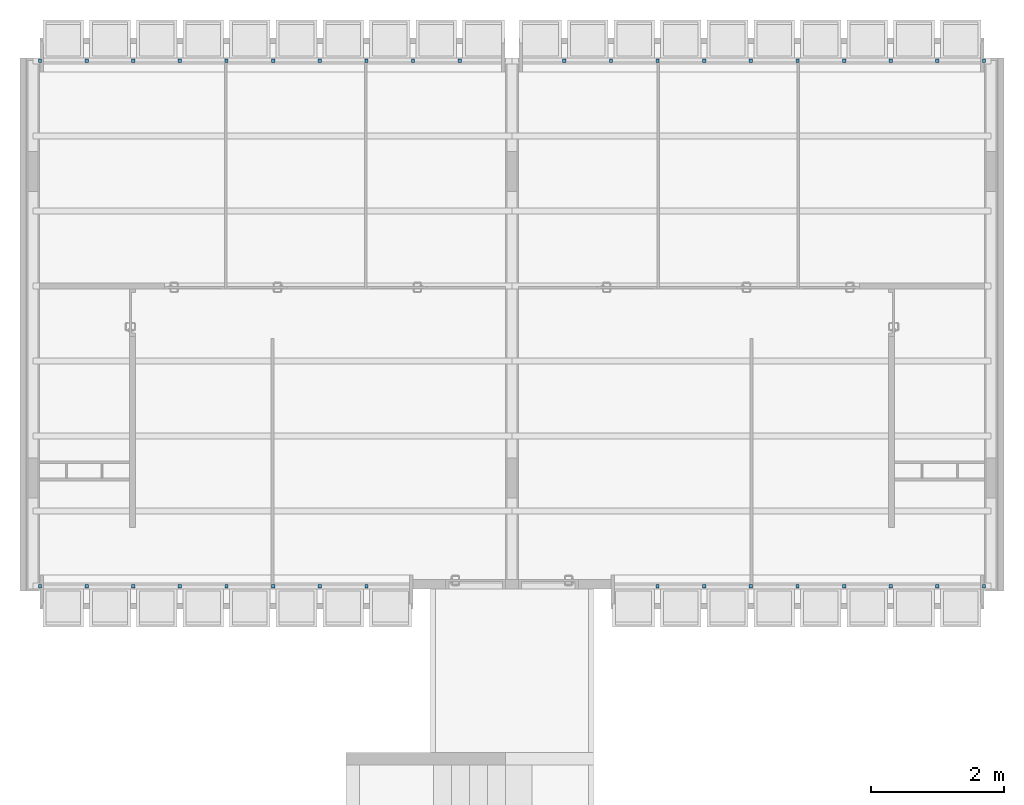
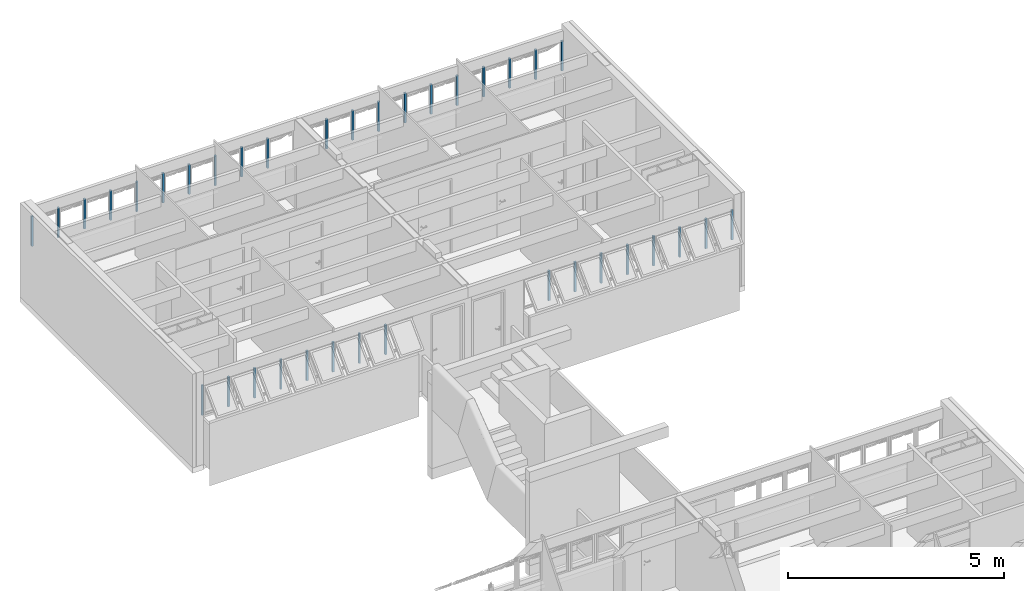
# One storey, part 3 of 37: 36 members, 4 elements without a shape of their own.
"""IFC2X3 building model written with IfcOpenShell, lengths in millimetres."""

from ifc_helpers import new_model, entity, si_unit, converted_unit, derived_unit, money_unit, direction, frame, origin_with_axes, place, context, subcontext, project, spatial, polyline, outline, extrude, material, type_object, element, aggregate, save


model = new_model("IFC2X3")

# Units and contexts
model_context = context("Model", 3, precision=0.01, world=origin_with_axes(), true_north=direction((0.0, 1.0)))
body_context = subcontext(model_context, "Body", "Model", "MODEL_VIEW")
ifc_project = project(units=[si_unit("LENGTHUNIT", "METRE", prefix="MILLI"), si_unit("AREAUNIT", "SQUARE_METRE"), si_unit("VOLUMEUNIT", "CUBIC_METRE"), converted_unit("PLANEANGLEUNIT", "DEGREE", entity("IfcPlaneAngleMeasure", 0.0174532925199), si_unit("PLANEANGLEUNIT", "RADIAN"), dimensions=[0, 0, 0, 0, 0, 0, 0]), money_unit("USD"), converted_unit("TIMEUNIT", "Year", entity("IfcTimeMeasure", 31556926.0), si_unit("TIMEUNIT", "SECOND"), dimensions=[0, 0, 1, 0, 0, 0, 0]), si_unit("MASSUNIT", "GRAM", prefix="KILO"), si_unit("THERMODYNAMICTEMPERATUREUNIT", "DEGREE_CELSIUS"), si_unit("LUMINOUSINTENSITYUNIT", "LUMEN"), si_unit("ENERGYUNIT", "JOULE", prefix="MEGA"), derived_unit("THERMALCONDUCTANCEUNIT", [(si_unit("POWERUNIT", "WATT"), 1), (si_unit("LENGTHUNIT", "METRE"), -1), (si_unit("THERMODYNAMICTEMPERATUREUNIT", "KELVIN"), -1)]), derived_unit("SPECIFICHEATCAPACITYUNIT", [(si_unit("ENERGYUNIT", "JOULE"), 1), (si_unit("MASSUNIT", "GRAM", prefix="KILO"), -1), (si_unit("THERMODYNAMICTEMPERATUREUNIT", "KELVIN"), -1)]), derived_unit("MASSDENSITYUNIT", [(si_unit("MASSUNIT", "GRAM", prefix="KILO"), 1), (si_unit("VOLUMEUNIT", "CUBIC_METRE"), -1)])], contexts=[model_context])

# Site, building, storey
site_placement = place(None, origin_with_axes())
site = spatial("IfcSite", under=ifc_project, at=site_placement, Name="Local", CompositionType="ELEMENT")
building_placement = place(site_placement, origin_with_axes())
building = spatial("IfcBuilding", under=site, at=building_placement, Name="Construção", CompositionType="ELEMENT")
storey_placement = place(building_placement, origin_with_axes())
storey = spatial("IfcBuildingStorey", under=building, at=storey_placement, Name="Primeiro Pavimento", CompositionType="ELEMENT", Elevation=0.0)

# Window, members
window_style = type_object("IfcWindowStyle", Name="Tipo de Parede Cortina", ConstructionType="NOTDEFINED", OperationType="NOTDEFINED", ParameterTakesPrecedence=False, Sizeable=False)
window_1_placement = place(storey_placement, frame((8520.0, 25844.9790225, 1355.02054151), z_axis=(0.0, 0.0, 1.0), x_axis=(1.0, 0.0, 0.0)))
window_1 = element("IfcWindow", 1, at=window_1_placement, inside=storey, type_object=window_style, Name="APTO4-JANELA-001")
ifc_material = material(Name="Alumínio")
member_type = type_object("IfcMemberType", Name="Montante 50 x 50", PredefinedType="MULLION")
member_1_placement = place(window_1_placement, frame((2450.0, 0.0, 0.0), z_axis=(0.0, 0.0, 1.0), x_axis=(1.0, 0.0, 0.0)))
member_1 = element("IfcMember", 2, at=member_1_placement, type_object=member_type, material=ifc_material, Name="APTO4-PC-Est-Mnt-430", context=body_context, shape_type="SweptSolid", body=[
    extrude(outline(polyline([(25.0, -50.0), (25.0, 0.0), (-25.0, 0.0), (-25.0, -50.0), (25.0, -50.0)])), origin_with_axes(), (0.0, 0.0, 1.0), 844.999891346),
])
member_2_placement = place(window_1_placement, frame((1750.0, 0.0, 0.0), z_axis=(0.0, 0.0, 1.0), x_axis=(1.0, 0.0, 0.0)))
member_2 = element("IfcMember", 3, at=member_2_placement, type_object=member_type, material=ifc_material, Name="APTO4-PC-Est-Mnt-485", context=body_context, shape_type="SweptSolid", body=[
    extrude(outline(polyline([(25.0, -50.0), (25.0, 0.0), (-25.0, 0.0), (-25.0, -50.0), (25.0, -50.0)])), origin_with_axes(), (0.0, 0.0, 1.0), 844.999891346),
])
member_3_placement = place(window_1_placement, frame((1050.0, 0.0, 0.0), z_axis=(0.0, 0.0, 1.0), x_axis=(1.0, 0.0, 0.0)))
member_3 = element("IfcMember", 4, at=member_3_placement, type_object=member_type, material=ifc_material, Name="APTO4-PC-Est-Mnt-486", context=body_context, shape_type="SweptSolid", body=[
    extrude(outline(polyline([(25.0, -50.0), (25.0, 0.0), (-25.0, 0.0), (-25.0, -50.0), (25.0, -50.0)])), origin_with_axes(), (0.0, 0.0, 1.0), 844.999891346),
])
member_4_placement = place(window_1_placement, frame((3850.0, 0.0, 0.0), z_axis=(0.0, 0.0, 1.0), x_axis=(1.0, 0.0, 0.0)))
member_4 = element("IfcMember", 5, at=member_4_placement, type_object=member_type, material=ifc_material, Name="APTO4-PC-Est-Mnt-428", context=body_context, shape_type="SweptSolid", body=[
    extrude(outline(polyline([(25.0, -50.0), (25.0, 0.0), (-25.0, 0.0), (-25.0, -50.0), (25.0, -50.0)])), origin_with_axes(), (0.0, 0.0, 1.0), 844.999891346),
])
member_5_placement = place(window_1_placement, frame((350.0, 0.0, 0.0), z_axis=(0.0, 0.0, 1.0), x_axis=(1.0, 0.0, 0.0)))
member_5 = element("IfcMember", 6, at=member_5_placement, type_object=member_type, material=ifc_material, Name="APTO4-PC-Est-Mnt-487", context=body_context, shape_type="SweptSolid", body=[
    extrude(outline(polyline([(25.0, -50.0), (25.0, 0.0), (-25.0, 0.0), (-25.0, -50.0), (25.0, -50.0)])), origin_with_axes(), (0.0, 0.0, 1.0), 844.999891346),
])
member_6_placement = place(window_1_placement, frame((-350.0, 0.0, 0.0), z_axis=(0.0, 0.0, 1.0), x_axis=(1.0, 0.0, 0.0)))
member_6 = element("IfcMember", 7, at=member_6_placement, type_object=member_type, material=ifc_material, Name="APTO4-PC-Est-Mnt-488", context=body_context, shape_type="SweptSolid", body=[
    extrude(outline(polyline([(25.0, -50.0), (25.0, 0.0), (-25.0, 0.0), (-25.0, -50.0), (25.0, -50.0)])), origin_with_axes(), (0.0, 0.0, 1.0), 844.999891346),
])
member_7_placement = place(window_1_placement, frame((5950.0, 0.0, 0.0), z_axis=(0.0, 0.0, 1.0), x_axis=(1.0, 0.0, 0.0)))
member_7 = element("IfcMember", 8, at=member_7_placement, type_object=member_type, material=ifc_material, Name="APTO4-PC-Est-Mnt-522", context=body_context, shape_type="SweptSolid", body=[
    extrude(outline(polyline([(25.0, -50.0), (25.0, 0.0), (-25.0, 0.0), (-25.0, -50.0), (25.0, -50.0)])), origin_with_axes(), (0.0, 0.0, 1.0), 844.999891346),
])
member_8_placement = place(window_1_placement, frame((3150.0, 0.0, 0.0), z_axis=(0.0, 0.0, 1.0), x_axis=(1.0, 0.0, 0.0)))
member_8 = element("IfcMember", 9, at=member_8_placement, type_object=member_type, material=ifc_material, Name="APTO4-PC-Est-Mnt-429", context=body_context, shape_type="SweptSolid", body=[
    extrude(outline(polyline([(25.0, -50.0), (25.0, 0.0), (-25.0, 0.0), (-25.0, -50.0), (25.0, -50.0)])), origin_with_axes(), (0.0, 0.0, 1.0), 844.999891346),
])
member_9_placement = place(window_1_placement, frame((4550.0, 0.0, 0.0), z_axis=(0.0, 0.0, 1.0), x_axis=(1.0, 0.0, 0.0)))
member_9 = element("IfcMember", 10, at=member_9_placement, type_object=member_type, material=ifc_material, Name="APTO4-PC-Est-Mnt-427", context=body_context, shape_type="SweptSolid", body=[
    extrude(outline(polyline([(25.0, -50.0), (25.0, 0.0), (-25.0, 0.0), (-25.0, -50.0), (25.0, -50.0)])), origin_with_axes(), (0.0, 0.0, 1.0), 844.999891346),
])
member_10_placement = place(window_1_placement, frame((5250.0, 0.0, 0.0), z_axis=(0.0, 0.0, 1.0), x_axis=(1.0, 0.0, 0.0)))
member_10 = element("IfcMember", 11, at=member_10_placement, type_object=member_type, material=ifc_material, Name="APTO4-PC-Est-Mnt-426", context=body_context, shape_type="SweptSolid", body=[
    extrude(outline(polyline([(25.0, -50.0), (25.0, 0.0), (-25.0, 0.0), (-25.0, -50.0), (25.0, -50.0)])), origin_with_axes(), (0.0, 0.0, 1.0), 844.999891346),
])
aggregate(window_1, [member_1, member_2, member_3, member_4, member_5, member_6, member_7, member_8, member_9, member_10])

window_2_placement = place(storey_placement, frame((12020.0, 17910.0, 1355.00007107), z_axis=(0.0, 0.0, 1.0), x_axis=(1.0, 0.0, 0.0)))
window_2 = element("IfcWindow", 12, at=window_2_placement, inside=storey, type_object=window_style, Name="APTO4-JANELA-000")
member_11_placement = place(window_2_placement, frame((-1050.0, 0.0, 0.0), z_axis=(0.0, 0.0, 1.0), x_axis=(1.0, 0.0, 0.0)))
member_11 = element("IfcMember", 13, at=member_11_placement, type_object=member_type, material=ifc_material, Name="APTO4-PC-Est-Mnt-430", context=body_context, shape_type="SweptSolid", body=[
    extrude(outline(polyline([(25.0, 50.0), (-25.0, 50.0), (-25.0, 0.0), (25.0, 0.0), (25.0, 50.0)])), origin_with_axes(), (0.0, 0.0, 1.0), 844.999928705),
])
member_12_placement = place(window_2_placement, frame((-1750.0, 0.0, 0.0), z_axis=(0.0, 0.0, 1.0), x_axis=(1.0, 0.0, 0.0)))
member_12 = element("IfcMember", 14, at=member_12_placement, type_object=member_type, material=ifc_material, Name="APTO4-PC-Est-Mnt-485", context=body_context, shape_type="SweptSolid", body=[
    extrude(outline(polyline([(25.0, 50.0), (-25.0, 50.0), (-25.0, 0.0), (25.0, 0.0), (25.0, 50.0)])), origin_with_axes(), (0.0, 0.0, 1.0), 844.999928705),
])
member_13_placement = place(window_2_placement, frame((-2450.0, 0.0, 0.0), z_axis=(0.0, 0.0, 1.0), x_axis=(1.0, 0.0, 0.0)))
member_13 = element("IfcMember", 15, at=member_13_placement, type_object=member_type, material=ifc_material, Name="APTO4-PC-Est-Mnt-486", context=body_context, shape_type="SweptSolid", body=[
    extrude(outline(polyline([(25.0, 50.0), (-25.0, 50.0), (-25.0, 0.0), (25.0, 0.0), (25.0, 50.0)])), origin_with_axes(), (0.0, 0.0, 1.0), 844.999928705),
])
member_14_placement = place(window_2_placement, frame((350.0, 0.0, 0.0), z_axis=(0.0, 0.0, 1.0), x_axis=(1.0, 0.0, 0.0)))
member_14 = element("IfcMember", 16, at=member_14_placement, type_object=member_type, material=ifc_material, Name="APTO4-PC-Est-Mnt-428", context=body_context, shape_type="SweptSolid", body=[
    extrude(outline(polyline([(25.0, 50.0), (-25.0, 50.0), (-25.0, 0.0), (25.0, 0.0), (25.0, 50.0)])), origin_with_axes(), (0.0, 0.0, 1.0), 844.999928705),
])
member_15_placement = place(window_2_placement, frame((2450.0, 0.0, 0.0), z_axis=(0.0, 0.0, 1.0), x_axis=(1.0, 0.0, 0.0)))
member_15 = element("IfcMember", 17, at=member_15_placement, type_object=member_type, material=ifc_material, Name="APTO4-PC-Est-Mnt-560", context=body_context, shape_type="SweptSolid", body=[
    extrude(outline(polyline([(25.0, 50.0), (-25.0, 50.0), (-25.0, 0.0), (25.0, 0.0), (25.0, 50.0)])), origin_with_axes(), (0.0, 0.0, 1.0), 844.999928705),
])
member_16_placement = place(window_2_placement, frame((-350.0, 0.0, 0.0), z_axis=(0.0, 0.0, 1.0), x_axis=(1.0, 0.0, 0.0)))
member_16 = element("IfcMember", 18, at=member_16_placement, type_object=member_type, material=ifc_material, Name="APTO4-PC-Est-Mnt-429", context=body_context, shape_type="SweptSolid", body=[
    extrude(outline(polyline([(25.0, 50.0), (-25.0, 50.0), (-25.0, 0.0), (25.0, 0.0), (25.0, 50.0)])), origin_with_axes(), (0.0, 0.0, 1.0), 844.999928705),
])
member_17_placement = place(window_2_placement, frame((1050.0, 0.0, 0.0), z_axis=(0.0, 0.0, 1.0), x_axis=(1.0, 0.0, 0.0)))
member_17 = element("IfcMember", 19, at=member_17_placement, type_object=member_type, material=ifc_material, Name="APTO4-PC-Est-Mnt-427", context=body_context, shape_type="SweptSolid", body=[
    extrude(outline(polyline([(25.0, 50.0), (-25.0, 50.0), (-25.0, 0.0), (25.0, 0.0), (25.0, 50.0)])), origin_with_axes(), (0.0, 0.0, 1.0), 844.999928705),
])
member_18_placement = place(window_2_placement, frame((1750.0, 0.0, 0.0), z_axis=(0.0, 0.0, 1.0), x_axis=(1.0, 0.0, 0.0)))
member_18 = element("IfcMember", 20, at=member_18_placement, type_object=member_type, material=ifc_material, Name="APTO4-PC-Est-Mnt-426", context=body_context, shape_type="SweptSolid", body=[
    extrude(outline(polyline([(25.0, 50.0), (-25.0, 50.0), (-25.0, 0.0), (25.0, 0.0), (25.0, 50.0)])), origin_with_axes(), (0.0, 0.0, 1.0), 844.999928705),
])
aggregate(window_2, [member_11, member_12, member_13, member_14, member_15, member_16, member_17, member_18])

window_3_placement = place(storey_placement, frame((6250.0, 25844.9790225, 1355.02054151), z_axis=(0.0, 0.0, 1.0), x_axis=(1.0, 0.0, 0.0)))
window_3 = element("IfcWindow", 21, at=window_3_placement, inside=storey, type_object=window_style, Name="APTO3-JANELA-001")
member_19_placement = place(window_3_placement, frame((-2450.0, 0.0, 0.0), z_axis=(0.0, 0.0, 1.0), x_axis=(-1.0, 0.0, 0.0)))
member_19 = element("IfcMember", 22, at=member_19_placement, type_object=member_type, material=ifc_material, Name="APTO3-PC-Est-Mnt-430", context=body_context, shape_type="SweptSolid", body=[
    extrude(outline(polyline([(-25.0, -50.0), (25.0, -50.0), (25.0, 0.0), (-25.0, 0.0), (-25.0, -50.0)])), frame((0.0, 0.0, 0.0), z_axis=(0.0, 0.0, 1.0), x_axis=(-1.0, 0.0, 0.0)), (0.0, 0.0, 1.0), 844.999928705),
])
member_20_placement = place(window_3_placement, frame((-1750.0, 0.0, 0.0), z_axis=(0.0, 0.0, 1.0), x_axis=(-1.0, 0.0, 0.0)))
member_20 = element("IfcMember", 23, at=member_20_placement, type_object=member_type, material=ifc_material, Name="APTO3-PC-Est-Mnt-485", context=body_context, shape_type="SweptSolid", body=[
    extrude(outline(polyline([(-25.0, -50.0), (25.0, -50.0), (25.0, 0.0), (-25.0, 0.0), (-25.0, -50.0)])), frame((0.0, 0.0, 0.0), z_axis=(0.0, 0.0, 1.0), x_axis=(-1.0, 0.0, 0.0)), (0.0, 0.0, 1.0), 844.999928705),
])
member_21_placement = place(window_3_placement, frame((-1050.0, 0.0, 0.0), z_axis=(0.0, 0.0, 1.0), x_axis=(-1.0, 0.0, 0.0)))
member_21 = element("IfcMember", 24, at=member_21_placement, type_object=member_type, material=ifc_material, Name="APTO3-PC-Est-Mnt-486", context=body_context, shape_type="SweptSolid", body=[
    extrude(outline(polyline([(-25.0, -50.0), (25.0, -50.0), (25.0, 0.0), (-25.0, 0.0), (-25.0, -50.0)])), frame((0.0, 0.0, 0.0), z_axis=(0.0, 0.0, 1.0), x_axis=(-1.0, 0.0, 0.0)), (0.0, 0.0, 1.0), 844.999928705),
])
member_22_placement = place(window_3_placement, frame((-3850.0, 0.0, 0.0), z_axis=(0.0, 0.0, 1.0), x_axis=(-1.0, 0.0, 0.0)))
member_22 = element("IfcMember", 25, at=member_22_placement, type_object=member_type, material=ifc_material, Name="APTO3-PC-Est-Mnt-428", context=body_context, shape_type="SweptSolid", body=[
    extrude(outline(polyline([(-25.0, -50.0), (25.0, -50.0), (25.0, 0.0), (-25.0, 0.0), (-25.0, -50.0)])), frame((0.0, 0.0, 0.0), z_axis=(0.0, 0.0, 1.0), x_axis=(-1.0, 0.0, 0.0)), (0.0, 0.0, 1.0), 844.999928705),
])
member_23_placement = place(window_3_placement, frame((-350.0, 0.0, 0.0), z_axis=(0.0, 0.0, 1.0), x_axis=(-1.0, 0.0, 0.0)))
member_23 = element("IfcMember", 26, at=member_23_placement, type_object=member_type, material=ifc_material, Name="APTO3-PC-Est-Mnt-487", context=body_context, shape_type="SweptSolid", body=[
    extrude(outline(polyline([(-25.0, -50.0), (25.0, -50.0), (25.0, 0.0), (-25.0, 0.0), (-25.0, -50.0)])), frame((0.0, 0.0, 0.0), z_axis=(0.0, 0.0, 1.0), x_axis=(-1.0, 0.0, 0.0)), (0.0, 0.0, 1.0), 844.999928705),
])
member_24_placement = place(window_3_placement, frame((350.0, 0.0, 0.0), z_axis=(0.0, 0.0, 1.0), x_axis=(-1.0, 0.0, 0.0)))
member_24 = element("IfcMember", 27, at=member_24_placement, type_object=member_type, material=ifc_material, Name="APTO3-PC-Est-Mnt-488", context=body_context, shape_type="SweptSolid", body=[
    extrude(outline(polyline([(-25.0, -50.0), (25.0, -50.0), (25.0, 0.0), (-25.0, 0.0), (-25.0, -50.0)])), frame((0.0, 0.0, 0.0), z_axis=(0.0, 0.0, 1.0), x_axis=(-1.0, 0.0, 0.0)), (0.0, 0.0, 1.0), 844.999928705),
])
member_25_placement = place(window_3_placement, frame((-5950.0, 0.0, 0.0), z_axis=(0.0, 0.0, 1.0), x_axis=(-1.0, 0.0, 0.0)))
member_25 = element("IfcMember", 28, at=member_25_placement, type_object=member_type, material=ifc_material, Name="APTO3-PC-Est-Mnt-522", context=body_context, shape_type="SweptSolid", body=[
    extrude(outline(polyline([(-25.0, -50.0), (25.0, -50.0), (25.0, 0.0), (-25.0, 0.0), (-25.0, -50.0)])), frame((0.0, 0.0, 0.0), z_axis=(0.0, 0.0, 1.0), x_axis=(-1.0, 0.0, 0.0)), (0.0, 0.0, 1.0), 844.999928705),
])
member_26_placement = place(window_3_placement, frame((-3150.0, 0.0, 0.0), z_axis=(0.0, 0.0, 1.0), x_axis=(-1.0, 0.0, 0.0)))
member_26 = element("IfcMember", 29, at=member_26_placement, type_object=member_type, material=ifc_material, Name="APTO3-PC-Est-Mnt-429", context=body_context, shape_type="SweptSolid", body=[
    extrude(outline(polyline([(-25.0, -50.0), (25.0, -50.0), (25.0, 0.0), (-25.0, 0.0), (-25.0, -50.0)])), frame((0.0, 0.0, 0.0), z_axis=(0.0, 0.0, 1.0), x_axis=(-1.0, 0.0, 0.0)), (0.0, 0.0, 1.0), 844.999928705),
])
member_27_placement = place(window_3_placement, frame((-4550.0, 0.0, 0.0), z_axis=(0.0, 0.0, 1.0), x_axis=(-1.0, 0.0, 0.0)))
member_27 = element("IfcMember", 30, at=member_27_placement, type_object=member_type, material=ifc_material, Name="APTO3-PC-Est-Mnt-427", context=body_context, shape_type="SweptSolid", body=[
    extrude(outline(polyline([(-25.0, -50.0), (25.0, -50.0), (25.0, 0.0), (-25.0, 0.0), (-25.0, -50.0)])), frame((0.0, 0.0, 0.0), z_axis=(0.0, 0.0, 1.0), x_axis=(-1.0, 0.0, 0.0)), (0.0, 0.0, 1.0), 844.999928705),
])
member_28_placement = place(window_3_placement, frame((-5250.0, 0.0, 0.0), z_axis=(0.0, 0.0, 1.0), x_axis=(-1.0, 0.0, 0.0)))
member_28 = element("IfcMember", 31, at=member_28_placement, type_object=member_type, material=ifc_material, Name="APTO3-PC-Est-Mnt-426", context=body_context, shape_type="SweptSolid", body=[
    extrude(outline(polyline([(-25.0, -50.0), (25.0, -50.0), (25.0, 0.0), (-25.0, 0.0), (-25.0, -50.0)])), frame((0.0, 0.0, 0.0), z_axis=(0.0, 0.0, 1.0), x_axis=(-1.0, 0.0, 0.0)), (0.0, 0.0, 1.0), 844.999928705),
])
aggregate(window_3, [member_19, member_20, member_21, member_22, member_23, member_24, member_25, member_26, member_27, member_28])

window_4_placement = place(storey_placement, frame((2750.0, 17910.0, 1355.00007107), z_axis=(0.0, 0.0, 1.0), x_axis=(1.0, 0.0, 0.0)))
window_4 = element("IfcWindow", 32, at=window_4_placement, inside=storey, type_object=window_style, Name="APTO3-JANELA-000")
member_29_placement = place(window_4_placement, frame((1050.0, 0.0, 0.0), z_axis=(0.0, 0.0, 1.0), x_axis=(-1.0, 0.0, 0.0)))
member_29 = element("IfcMember", 33, at=member_29_placement, type_object=member_type, material=ifc_material, Name="APTO3-PC-Est-Mnt-430", context=body_context, shape_type="SweptSolid", body=[
    extrude(outline(polyline([(-25.0, 50.0), (-25.0, 0.0), (25.0, 0.0), (25.0, 50.0), (-25.0, 50.0)])), frame((0.0, 0.0, 0.0), z_axis=(0.0, 0.0, 1.0), x_axis=(-1.0, 0.0, 0.0)), (0.0, 0.0, 1.0), 844.999891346),
])
member_30_placement = place(window_4_placement, frame((1750.0, 0.0, 0.0), z_axis=(0.0, 0.0, 1.0), x_axis=(-1.0, 0.0, 0.0)))
member_30 = element("IfcMember", 34, at=member_30_placement, type_object=member_type, material=ifc_material, Name="APTO3-PC-Est-Mnt-485", context=body_context, shape_type="SweptSolid", body=[
    extrude(outline(polyline([(-25.0, 50.0), (-25.0, 0.0), (25.0, 0.0), (25.0, 50.0), (-25.0, 50.0)])), frame((0.0, 0.0, 0.0), z_axis=(0.0, 0.0, 1.0), x_axis=(-1.0, 0.0, 0.0)), (0.0, 0.0, 1.0), 844.999891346),
])
member_31_placement = place(window_4_placement, frame((2450.0, 0.0, 0.0), z_axis=(0.0, 0.0, 1.0), x_axis=(-1.0, 0.0, 0.0)))
member_31 = element("IfcMember", 35, at=member_31_placement, type_object=member_type, material=ifc_material, Name="APTO3-PC-Est-Mnt-486", context=body_context, shape_type="SweptSolid", body=[
    extrude(outline(polyline([(-25.0, 50.0), (-25.0, 0.0), (25.0, 0.0), (25.0, 50.0), (-25.0, 50.0)])), frame((0.0, 0.0, 0.0), z_axis=(0.0, 0.0, 1.0), x_axis=(-1.0, 0.0, 0.0)), (0.0, 0.0, 1.0), 844.999891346),
])
member_32_placement = place(window_4_placement, frame((-350.0, 0.0, 0.0), z_axis=(0.0, 0.0, 1.0), x_axis=(-1.0, 0.0, 0.0)))
member_32 = element("IfcMember", 36, at=member_32_placement, type_object=member_type, material=ifc_material, Name="APTO3-PC-Est-Mnt-428", context=body_context, shape_type="SweptSolid", body=[
    extrude(outline(polyline([(-25.0, 50.0), (-25.0, 0.0), (25.0, 0.0), (25.0, 50.0), (-25.0, 50.0)])), frame((0.0, 0.0, 0.0), z_axis=(0.0, 0.0, 1.0), x_axis=(-1.0, 0.0, 0.0)), (0.0, 0.0, 1.0), 844.999891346),
])
member_33_placement = place(window_4_placement, frame((-2450.0, 0.0, 0.0), z_axis=(0.0, 0.0, 1.0), x_axis=(-1.0, 0.0, 0.0)))
member_33 = element("IfcMember", 37, at=member_33_placement, type_object=member_type, material=ifc_material, Name="APTO3-PC-Est-Mnt-560", context=body_context, shape_type="SweptSolid", body=[
    extrude(outline(polyline([(-25.0, 50.0), (-25.0, 0.0), (25.0, 0.0), (25.0, 50.0), (-25.0, 50.0)])), frame((0.0, 0.0, 0.0), z_axis=(0.0, 0.0, 1.0), x_axis=(-1.0, 0.0, 0.0)), (0.0, 0.0, 1.0), 844.999891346),
])
member_34_placement = place(window_4_placement, frame((350.0, 0.0, 0.0), z_axis=(0.0, 0.0, 1.0), x_axis=(-1.0, 0.0, 0.0)))
member_34 = element("IfcMember", 38, at=member_34_placement, type_object=member_type, material=ifc_material, Name="APTO3-PC-Est-Mnt-429", context=body_context, shape_type="SweptSolid", body=[
    extrude(outline(polyline([(-25.0, 50.0), (-25.0, 0.0), (25.0, 0.0), (25.0, 50.0), (-25.0, 50.0)])), frame((0.0, 0.0, 0.0), z_axis=(0.0, 0.0, 1.0), x_axis=(-1.0, 0.0, 0.0)), (0.0, 0.0, 1.0), 844.999891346),
])
member_35_placement = place(window_4_placement, frame((-1050.0, 0.0, 0.0), z_axis=(0.0, 0.0, 1.0), x_axis=(-1.0, 0.0, 0.0)))
member_35 = element("IfcMember", 39, at=member_35_placement, type_object=member_type, material=ifc_material, Name="APTO3-PC-Est-Mnt-427", context=body_context, shape_type="SweptSolid", body=[
    extrude(outline(polyline([(-25.0, 50.0), (-25.0, 0.0), (25.0, 0.0), (25.0, 50.0), (-25.0, 50.0)])), frame((0.0, 0.0, 0.0), z_axis=(0.0, 0.0, 1.0), x_axis=(-1.0, 0.0, 0.0)), (0.0, 0.0, 1.0), 844.999891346),
])
member_36_placement = place(window_4_placement, frame((-1750.0, 0.0, 0.0), z_axis=(0.0, 0.0, 1.0), x_axis=(-1.0, 0.0, 0.0)))
member_36 = element("IfcMember", 40, at=member_36_placement, type_object=member_type, material=ifc_material, Name="APTO3-PC-Est-Mnt-426", context=body_context, shape_type="SweptSolid", body=[
    extrude(outline(polyline([(-25.0, 50.0), (-25.0, 0.0), (25.0, 0.0), (25.0, 50.0), (-25.0, 50.0)])), frame((0.0, 0.0, 0.0), z_axis=(0.0, 0.0, 1.0), x_axis=(-1.0, 0.0, 0.0)), (0.0, 0.0, 1.0), 844.999891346),
])
aggregate(window_4, [member_29, member_30, member_31, member_32, member_33, member_34, member_35, member_36])

save(model, "model.ifc")
